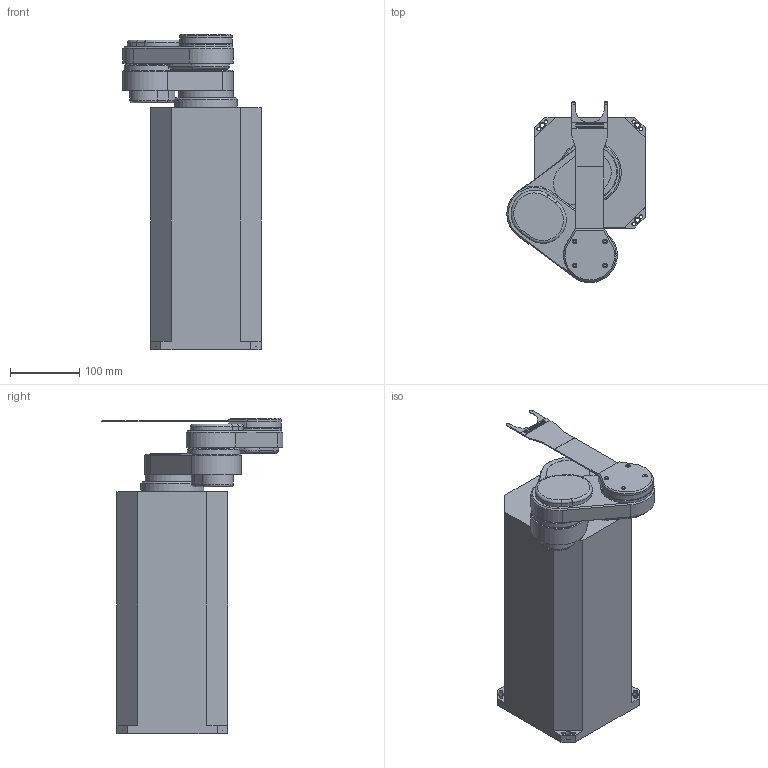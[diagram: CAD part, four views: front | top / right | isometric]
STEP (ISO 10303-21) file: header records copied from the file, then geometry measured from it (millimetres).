
FILE_DESCRIPTION((''),'2;1');
FILE_NAME('\\Jel-server\開発標準\設計資料\機械部門\Autodesk-inventor\HP用変換データ\小型SCR\SCR3100S-200-PM.stp','2011-09-09T09:25:05',('a-yamamoto'),(''),'Autodesk Inventor 2011','Autodesk Inventor 2011','');
FILE_SCHEMA(('AUTOMOTIVE_DESIGN { 1 0 10303 214 1 1 1 1 }'));
Length unit declared in the file: millimetre
Products named in the file (8): SCR3100S-200-PM (LevelofDetail1); pipe; arm1; arm2; wrist-block1; wrist-block2; end-effector; Body
Assembly tree (7 placements, depth 2):
  SCR3100S-200-PM (LevelofDetail1)
    pipe
    arm1
    arm2
    wrist-block1
    wrist-block2
    end-effector
    Body
Bounding box: 199.98 x 262.53 x 456.1 mm (x, y, z)
Volume: 9441305.1 mm3; surface area: 512774.2 mm2
Topology: 7 solids, 7 shells, 234 faces, 546 edges, 353 vertices
Faces by surface type: plane 142, cylinder 71, cone 14, torus 7
Full cylindrical faces by diameter (mm): 3 x1, 3.6 x4, 4 x1, 5 x8, 6 x4, 9 x4, 10 x3, 50 x2, 60 x1, 64 x2, 76 x2, 79 x1, 89 x2, 91 x1
Entity records: 6682 total; most frequent: DIRECTION 1163, CARTESIAN_POINT 1093, ORIENTED_EDGE 990, EDGE_CURVE 495, AXIS2_PLACEMENT_3D 421, VERTEX_POINT 345, EDGE_LOOP 338, VECTOR 321
